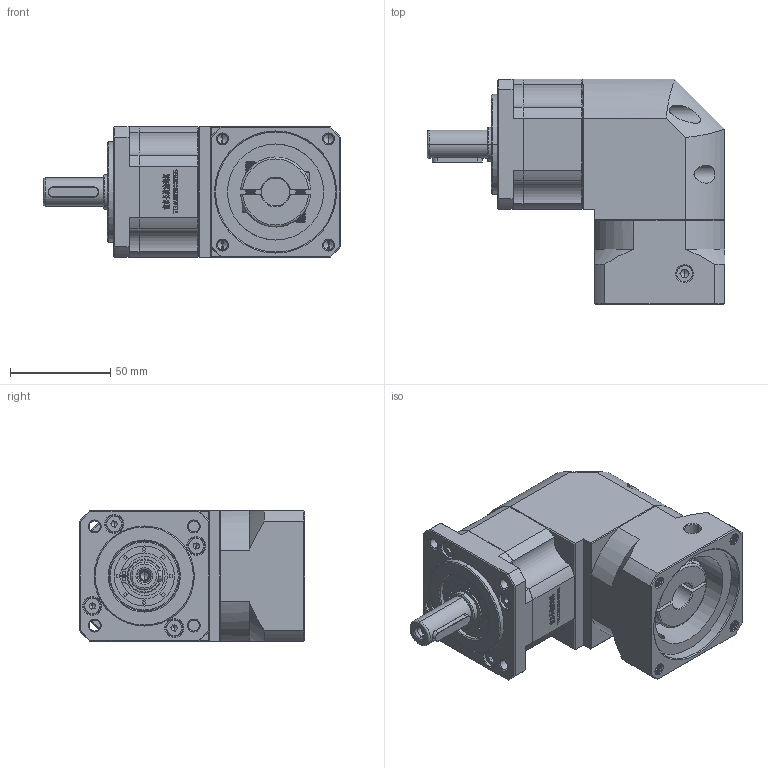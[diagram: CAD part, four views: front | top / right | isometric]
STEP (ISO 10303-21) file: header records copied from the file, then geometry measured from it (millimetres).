
FILE_DESCRIPTION (( 'STEP AP214' ), '1' );
FILE_NAME ('ZBR60-D14-L1-14-60-75-M6.STEP', '2022-04-19T09:04:08', ( '' ), ( 'Microsoft' ), 'SwSTEP 2.0', 'SolidWorks 2016', '' );
FILE_SCHEMA (( 'AUTOMOTIVE_DESIGN' ));
Length unit declared in the file: millimetre
Products named in the file (1): ZBR60-D14-L1-14-60-75-M6
Bounding box: 148.5 x 112.7 x 65 mm (x, y, z)
Volume: 539860.6 mm3; surface area: 79506.9 mm2
Topology: 5 solids, 5 shells, 2839 faces, 7701 edges, 4998 vertices
Faces by surface type: plane 1472, bspline 579, cylinder 428, cone 326, torus 34
Entity records: 154669 total; most frequent: CARTESIAN_POINT 56149, ORIENTED_EDGE 15342, DIRECTION 11725, EDGE_CURVE 7671, LINE 5065, VECTOR 5065, VERTEX_POINT 4998, AXIS2_PLACEMENT_3D 3330
